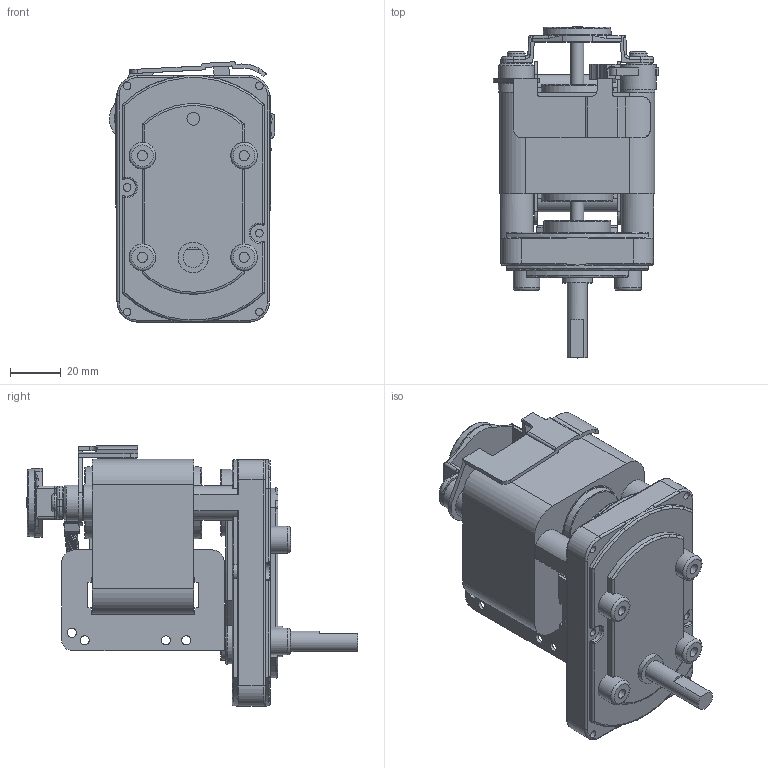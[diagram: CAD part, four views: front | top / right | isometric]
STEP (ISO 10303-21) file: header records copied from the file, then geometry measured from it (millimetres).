
FILE_DESCRIPTION((''),'2;1');
FILE_NAME('E:\2공장-도면\3D\표준형 3D(민규)\1공장 step\KGB BRAKE SERIES.stp','2015-02-26T11:29:36',('AHN'),(''),'Autodesk Inventor 2012','Autodesk Inventor 2012','');
FILE_SCHEMA(('CONFIG_CONTROL_DESIGN'));
Length unit declared in the file: millimetre
Products named in the file (3): KGB BRAKE; KGB BRAKE 기어박스; 6140B
Assembly tree (2 placements, depth 2):
  KGB BRAKE
    KGB BRAKE 기어박스
    6140B
Bounding box: 64.99 x 130.5 x 102.42 mm (x, y, z)
Volume: 276932.5 mm3; surface area: 69809.8 mm2
Topology: 5 solids, 7 shells, 489 faces, 1226 edges, 770 vertices
Faces by surface type: plane 219, cylinder 193, torus 44, bspline 25, cone 8
Full cylindrical faces by diameter (mm): 0.35 x2, 1.6 x1, 1.8 x2, 3 x8, 3.3 x2, 3.6 x8, 4 x5, 4.5 x2, 5 x8, 6 x2, 7 x5, 7.1 x1, 8 x1, 8.98 x1, 9 x1, 9.15 x1, 10.5 x4, 12 x2, 14 x3, 15 x1, 26.3 x1, 29.4 x1, 30 x1
Entity records: 22747 total; most frequent: CARTESIAN_POINT 11211, DIRECTION 2387, ORIENTED_EDGE 2182, EDGE_CURVE 1091, AXIS2_PLACEMENT_3D 911, VERTEX_POINT 739, EDGE_LOOP 654, VECTOR 565
